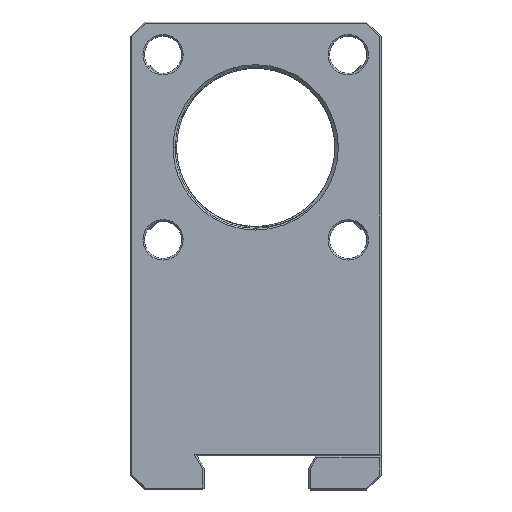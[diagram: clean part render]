
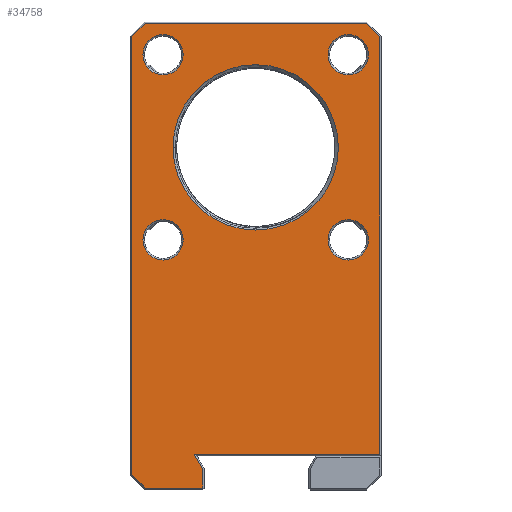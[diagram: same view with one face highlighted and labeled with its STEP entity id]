
A CAD part, top view. The second image highlights one B-rep face of the part: STEP entity #34758.
In plain terms, the highlighted planar face has unit normal (0, 0, 1).
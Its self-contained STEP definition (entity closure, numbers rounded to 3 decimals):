
#18087=DIRECTION('',(0.,1.,0.));
#18088=VECTOR('',#18087,70.999);
#18089=CARTESIAN_POINT('',(-34.514,-39.874,
16.382));
#18090=LINE('',#18089,#18088);
#18099=DIRECTION('',(0.707,-0.707,0.));
#18100=VECTOR('',#18099,3.022);
#18101=CARTESIAN_POINT('',(-34.514,-39.874,
16.382));
#18102=LINE('',#18101,#18100);
#18103=DIRECTION('',(-0.707,-0.707,0.));
#18104=VECTOR('',#18103,3.022);
#18105=CARTESIAN_POINT('',(-32.376,33.262,
16.382));
#18106=LINE('',#18105,#18104);
#18107=DIRECTION('',(-0.707,0.707,0.));
#18108=VECTOR('',#18107,3.022);
#18109=CARTESIAN_POINT('',(5.618,31.125,16.382));
#18110=LINE('',#18109,#18108);
#18111=DIRECTION('',(-0.5,0.866,0.));
#18112=VECTOR('',#18111,2.718);
#18113=CARTESIAN_POINT('',(-23.053,-38.904,
16.382));
#18114=LINE('',#18113,#18112);
#18115=CARTESIAN_POINT('',(0.541,-1.792,
16.382));
#18116=DIRECTION('',(0.,0.,-1.));
#18117=DIRECTION('',(1.,0.,0.));
#18118=AXIS2_PLACEMENT_3D('',#18115,#18116,#18117);
#18120=CARTESIAN_POINT('',(0.541,-1.792,
16.382));
#18121=DIRECTION('',(0.,0.,-1.));
#18122=DIRECTION('',(-1.,0.,0.));
#18123=AXIS2_PLACEMENT_3D('',#18120,#18121,#18122);
#18125=CARTESIAN_POINT('',(-29.459,-1.792,
16.382));
#18126=DIRECTION('',(0.,0.,-1.));
#18127=DIRECTION('',(1.,0.,0.));
#18128=AXIS2_PLACEMENT_3D('',#18125,#18126,#18127);
#18130=CARTESIAN_POINT('',(-29.459,-1.792,
16.382));
#18131=DIRECTION('',(0.,0.,-1.));
#18132=DIRECTION('',(-1.,0.,0.));
#18133=AXIS2_PLACEMENT_3D('',#18130,#18131,#18132);
#18135=CARTESIAN_POINT('',(-29.459,28.208,
16.382));
#18136=DIRECTION('',(0.,0.,-1.));
#18137=DIRECTION('',(1.,0.,0.));
#18138=AXIS2_PLACEMENT_3D('',#18135,#18136,#18137);
#18140=CARTESIAN_POINT('',(-29.459,28.208,
16.382));
#18141=DIRECTION('',(0.,0.,-1.));
#18142=DIRECTION('',(-1.,0.,0.));
#18143=AXIS2_PLACEMENT_3D('',#18140,#18141,#18142);
#18145=CARTESIAN_POINT('',(0.541,28.208,
16.382));
#18146=DIRECTION('',(0.,0.,-1.));
#18147=DIRECTION('',(1.,0.,0.));
#18148=AXIS2_PLACEMENT_3D('',#18145,#18146,#18147);
#18150=CARTESIAN_POINT('',(0.541,28.208,
16.382));
#18151=DIRECTION('',(0.,0.,-1.));
#18152=DIRECTION('',(-1.,0.,0.));
#18153=AXIS2_PLACEMENT_3D('',#18150,#18151,#18152);
#18155=CARTESIAN_POINT('',(-14.448,13.196,
16.382));
#18156=DIRECTION('',(0.,0.,-1.));
#18157=DIRECTION('',(1.,0.,0.));
#18158=AXIS2_PLACEMENT_3D('',#18155,#18156,#18157);
#18160=CARTESIAN_POINT('',(-14.448,13.196,
16.382));
#18161=DIRECTION('',(0.,0.,-1.));
#18162=DIRECTION('',(-1.,0.,0.));
#18163=AXIS2_PLACEMENT_3D('',#18160,#18161,#18162);
#18165=DIRECTION('',(0.,-1.,0.));
#18166=VECTOR('',#18165,3.107);
#18167=CARTESIAN_POINT('',(-23.053,-38.904,
16.382));
#18168=LINE('',#18167,#18166);
#18189=DIRECTION('',(-1.,0.,0.));
#18190=VECTOR('',#18189,9.323);
#18191=CARTESIAN_POINT('',(-23.053,-42.011,
16.382));
#18192=LINE('',#18191,#18190);
#18209=DIRECTION('',(-1.,0.,0.));
#18210=VECTOR('',#18209,30.031);
#18211=CARTESIAN_POINT('',(5.618,-36.55,
16.382));
#18212=LINE('',#18211,#18210);
#18221=DIRECTION('',(0.,-1.,0.));
#18222=VECTOR('',#18221,67.675);
#18223=CARTESIAN_POINT('',(5.618,31.125,16.382));
#18224=LINE('',#18223,#18222);
#18241=DIRECTION('',(1.,0.,0.));
#18242=VECTOR('',#18241,35.858);
#18243=CARTESIAN_POINT('',(-32.376,33.262,
16.382));
#18244=LINE('',#18243,#18242);
#33222=CARTESIAN_POINT('',(-2.723,-1.792,
16.382));
#33223=VERTEX_POINT('',#33222);
#33256=CARTESIAN_POINT('',(3.805,28.208,16.382));
#33258=VERTEX_POINT('',#33256);
#33260=CARTESIAN_POINT('',(-32.376,33.262,
16.382));
#33261=CARTESIAN_POINT('',(3.481,33.262,16.382));
#33262=VERTEX_POINT('',#33260);
#33263=VERTEX_POINT('',#33261);
#33270=CARTESIAN_POINT('',(-23.053,-38.904,
16.382));
#33271=CARTESIAN_POINT('',(-24.412,-36.55,
16.382));
#33272=VERTEX_POINT('',#33270);
#33273=VERTEX_POINT('',#33271);
#33290=CARTESIAN_POINT('',(-32.723,-1.792,
16.382));
#33291=CARTESIAN_POINT('',(-26.195,-1.792,
16.382));
#33292=VERTEX_POINT('',#33290);
#33293=VERTEX_POINT('',#33291);
#33295=CARTESIAN_POINT('',(-34.514,-39.874,
16.382));
#33297=VERTEX_POINT('',#33295);
#33298=CARTESIAN_POINT('',(-23.053,-42.011,
16.382));
#33299=VERTEX_POINT('',#33298);
#33324=CARTESIAN_POINT('',(-34.514,31.125,
16.382));
#33325=VERTEX_POINT('',#33324);
#33332=CARTESIAN_POINT('',(-32.723,28.208,
16.382));
#33333=CARTESIAN_POINT('',(-26.195,28.208,
16.382));
#33334=VERTEX_POINT('',#33332);
#33335=VERTEX_POINT('',#33333);
#33342=CARTESIAN_POINT('',(3.805,-1.792,
16.382));
#33343=VERTEX_POINT('',#33342);
#33356=CARTESIAN_POINT('',(-2.723,28.208,
16.382));
#33357=VERTEX_POINT('',#33356);
#33368=CARTESIAN_POINT('',(5.618,-36.55,
16.382));
#33369=VERTEX_POINT('',#33368);
#33378=CARTESIAN_POINT('',(-32.376,-42.011,
16.382));
#33379=VERTEX_POINT('',#33378);
#33382=CARTESIAN_POINT('',(-1.049,13.196,
16.382));
#33383=CARTESIAN_POINT('',(-27.846,13.196,
16.382));
#33384=VERTEX_POINT('',#33382);
#33385=VERTEX_POINT('',#33383);
#33386=CARTESIAN_POINT('',(5.618,31.125,16.382));
#33387=VERTEX_POINT('',#33386);
#34703=CARTESIAN_POINT('',(-14.448,13.196,
16.382));
#34704=DIRECTION('',(0.,0.,1.));
#34705=DIRECTION('',(1.,0.,0.));
#34706=AXIS2_PLACEMENT_3D('',#34703,#34704,#34705);
#34707=PLANE('',#34706);
#34709=ORIENTED_EDGE('',*,*,#34708,.T.);
#34711=ORIENTED_EDGE('',*,*,#34710,.T.);
#34712=ORIENTED_EDGE('',*,*,#34695,.F.);
#34713=ORIENTED_EDGE('',*,*,#34684,.T.);
#34715=ORIENTED_EDGE('',*,*,#34714,.F.);
#34717=ORIENTED_EDGE('',*,*,#34716,.T.);
#34719=ORIENTED_EDGE('',*,*,#34718,.F.);
#34721=ORIENTED_EDGE('',*,*,#34720,.T.);
#34723=ORIENTED_EDGE('',*,*,#34722,.T.);
#34725=ORIENTED_EDGE('',*,*,#34724,.F.);
#34726=EDGE_LOOP('',(#34709,#34711,#34712,#34713,#34715,#34717,#34719,#34721,
#34723,#34725));
#34727=FACE_OUTER_BOUND('',#34726,.F.);
#34729=ORIENTED_EDGE('',*,*,#34728,.F.);
#34731=ORIENTED_EDGE('',*,*,#34730,.F.);
#34732=EDGE_LOOP('',(#34729,#34731));
#34733=FACE_BOUND('',#34732,.F.);
#34735=ORIENTED_EDGE('',*,*,#34734,.F.);
#34737=ORIENTED_EDGE('',*,*,#34736,.F.);
#34738=EDGE_LOOP('',(#34735,#34737));
#34739=FACE_BOUND('',#34738,.F.);
#34741=ORIENTED_EDGE('',*,*,#34740,.F.);
#34743=ORIENTED_EDGE('',*,*,#34742,.F.);
#34744=EDGE_LOOP('',(#34741,#34743));
#34745=FACE_BOUND('',#34744,.F.);
#34747=ORIENTED_EDGE('',*,*,#34746,.F.);
#34749=ORIENTED_EDGE('',*,*,#34748,.F.);
#34750=EDGE_LOOP('',(#34747,#34749));
#34751=FACE_BOUND('',#34750,.F.);
#34753=ORIENTED_EDGE('',*,*,#34752,.F.);
#34755=ORIENTED_EDGE('',*,*,#34754,.F.);
#34756=EDGE_LOOP('',(#34753,#34755));
#34757=FACE_BOUND('',#34756,.F.);
#34758=ADVANCED_FACE('',(#34727,#34733,#34739,#34745,#34751,#34757),#34707,.T.);
#18119=CIRCLE('',#18118,3.264);
#18124=CIRCLE('',#18123,3.264);
#18129=CIRCLE('',#18128,3.264);
#18134=CIRCLE('',#18133,3.264);
#18139=CIRCLE('',#18138,3.264);
#18144=CIRCLE('',#18143,3.264);
#18149=CIRCLE('',#18148,3.264);
#18154=CIRCLE('',#18153,3.264);
#18159=CIRCLE('',#18158,13.399);
#18164=CIRCLE('',#18163,13.399);
#34684=EDGE_CURVE('',#33297,#33325,#18090,.T.);
#34695=EDGE_CURVE('',#33297,#33379,#18102,.T.);
#34708=EDGE_CURVE('',#33272,#33299,#18168,.T.);
#34710=EDGE_CURVE('',#33299,#33379,#18192,.T.);
#34714=EDGE_CURVE('',#33262,#33325,#18106,.T.);
#34716=EDGE_CURVE('',#33262,#33263,#18244,.T.);
#34718=EDGE_CURVE('',#33387,#33263,#18110,.T.);
#34720=EDGE_CURVE('',#33387,#33369,#18224,.T.);
#34722=EDGE_CURVE('',#33369,#33273,#18212,.T.);
#34724=EDGE_CURVE('',#33272,#33273,#18114,.T.);
#34728=EDGE_CURVE('',#33343,#33223,#18119,.T.);
#34730=EDGE_CURVE('',#33223,#33343,#18124,.T.);
#34734=EDGE_CURVE('',#33293,#33292,#18129,.T.);
#34736=EDGE_CURVE('',#33292,#33293,#18134,.T.);
#34740=EDGE_CURVE('',#33335,#33334,#18139,.T.);
#34742=EDGE_CURVE('',#33334,#33335,#18144,.T.);
#34746=EDGE_CURVE('',#33258,#33357,#18149,.T.);
#34748=EDGE_CURVE('',#33357,#33258,#18154,.T.);
#34752=EDGE_CURVE('',#33384,#33385,#18159,.T.);
#34754=EDGE_CURVE('',#33385,#33384,#18164,.T.);
